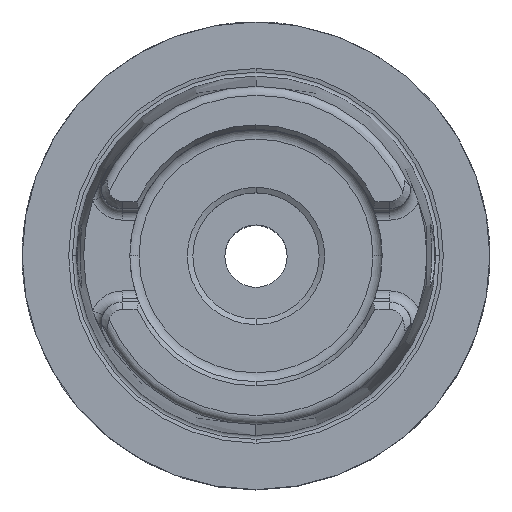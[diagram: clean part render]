
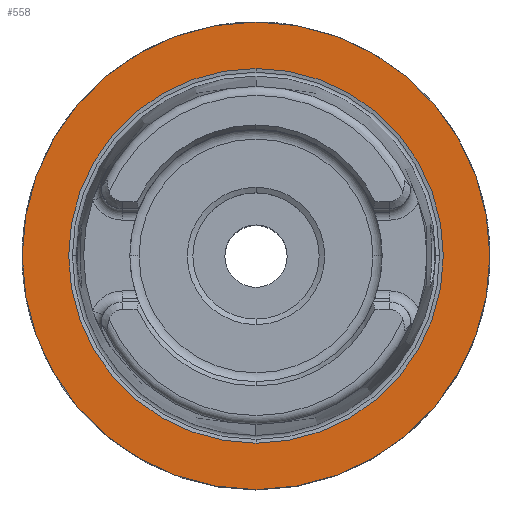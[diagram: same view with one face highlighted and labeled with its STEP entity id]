
A CAD part, top view. The second image highlights one B-rep face of the part: STEP entity #558.
In plain terms, the highlighted planar face has unit normal (0, 0, 1).
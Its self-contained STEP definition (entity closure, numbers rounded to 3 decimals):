
#558=ADVANCED_FACE('',(#1109,#1110),#1111,.T.);
#1109=FACE_OUTER_BOUND('',#2047,.T.);
#1110=FACE_BOUND('',#2048,.T.);
#1111=PLANE('',#2049);
#2047=EDGE_LOOP('',(#3633,#3634));
#2048=EDGE_LOOP('',(#3635,#3636));
#2049=AXIS2_PLACEMENT_3D('',#3637,#3638,#3639);
#3633=ORIENTED_EDGE('',*,*,#3866,.F.);
#3634=ORIENTED_EDGE('',*,*,#3976,.F.);
#3635=ORIENTED_EDGE('',*,*,#4279,.T.);
#3636=ORIENTED_EDGE('',*,*,#3678,.T.);
#3637=CARTESIAN_POINT('',(0.0,27.91,0.));
#3638=DIRECTION('',(0.0,0.0,1.0));
#3639=DIRECTION('',(1.0,0.0,0.0));
#3678=EDGE_CURVE('',#4334,#4331,#4335,.T.);
#3866=EDGE_CURVE('',#4651,#4654,#4655,.T.);
#3976=EDGE_CURVE('',#4654,#4651,#4824,.T.);
#4279=EDGE_CURVE('',#4331,#4334,#5217,.T.);
#4331=VERTEX_POINT('',#5273);
#4334=VERTEX_POINT('',#5277);
#4335=CIRCLE('',#5278,25.238);
#4651=VERTEX_POINT('',#5968);
#4654=VERTEX_POINT('',#5972);
#4655=CIRCLE('',#5973,31.5);
#4824=CIRCLE('',#6251,31.5);
#5217=CIRCLE('',#7351,25.238);
#5273=CARTESIAN_POINT('',(0.0,25.238,0.));
#5277=CARTESIAN_POINT('',(0.,-25.238,0.));
#5278=AXIS2_PLACEMENT_3D('',#7414,#7415,#7416);
#5968=CARTESIAN_POINT('',(0.0,31.5,0.));
#5972=CARTESIAN_POINT('',(0.,-31.5,0.0));
#5973=AXIS2_PLACEMENT_3D('',#7691,#7692,#7693);
#6251=AXIS2_PLACEMENT_3D('',#7872,#7873,#7874);
#7351=AXIS2_PLACEMENT_3D('',#8147,#8148,#8149);
#7414=CARTESIAN_POINT('',(0.0,0.0,0.));
#7415=DIRECTION('',(0.0,0.0,-1.0));
#7416=DIRECTION('',(0.0,1.0,0.0));
#7691=CARTESIAN_POINT('',(0.0,0.0,0.0));
#7692=DIRECTION('',(0.0,0.0,-1.0));
#7693=DIRECTION('',(0.0,1.0,0.0));
#7872=CARTESIAN_POINT('',(0.0,0.0,0.0));
#7873=DIRECTION('',(0.0,0.0,-1.0));
#7874=DIRECTION('',(0.0,1.0,0.0));
#8147=CARTESIAN_POINT('',(0.0,0.0,0.));
#8148=DIRECTION('',(0.0,0.0,-1.0));
#8149=DIRECTION('',(0.0,1.0,0.0));
